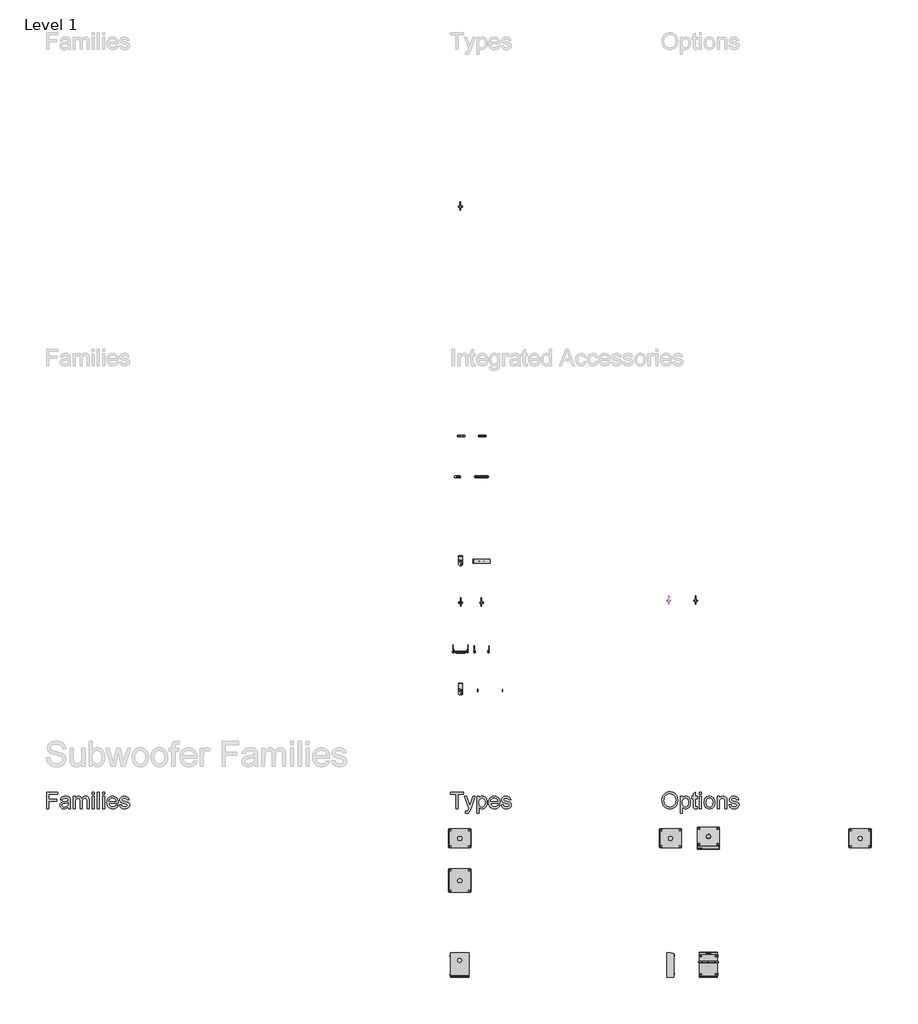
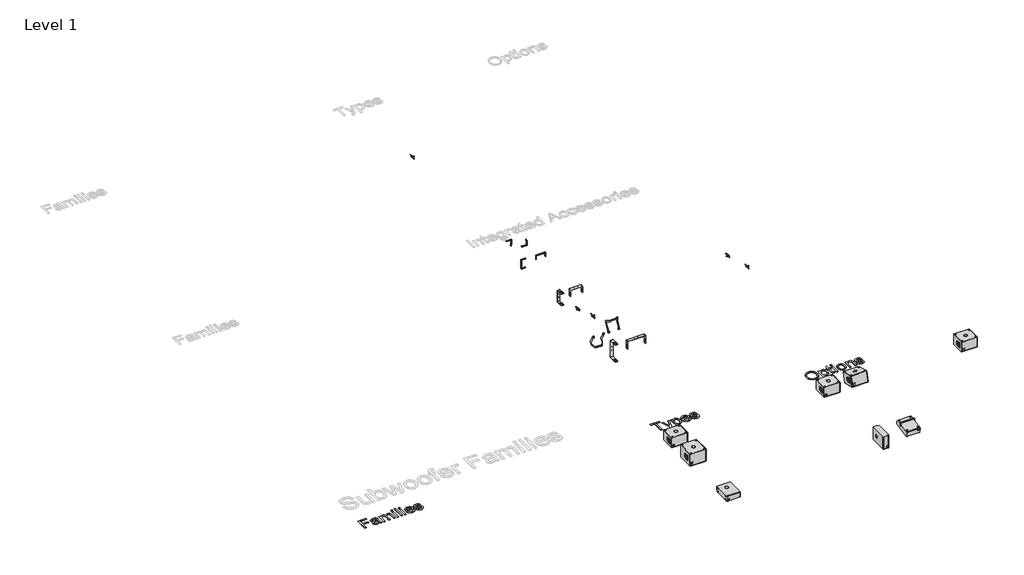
# One storey, part 1 of 6: 27 proxies.
"""IFC4 building model written with IfcOpenShell, lengths in millimetres."""

from ifc_helpers import new_model, si_unit, origin, origin_with_axes, place, context, project, spatial, polyline, outline, extrude, transform, mapped, element, save
from components import communication_devices_e63921f5, communication_devices_d8d2d2e4, communication_devices_67a3c12e, communication_devices_dac326ea, b8_horizontal_bracket_ac25d2c8, b8_sub_eabcae69, b8_sub_089d2610, b8_sub_062dfbe9, e12_horizontal_bracket_7cf302ef, e12x_sub_e6f610f2, e12x_sub_99dfb99e, e15x_sub_ec955287, e6_horizontal_bracket_5e8173ac, e6_horizontal_bracket_a06f2867, e6_swivel_bracket_389a8270, e6_swivel_bracket_26cc3f17, e8_horizontal_bracket_a681bd05

model = new_model("IFC4")

# Units and contexts
model_context = context("Model", 3, world=origin())
ifc_project = project(units=[si_unit("LENGTHUNIT", "METRE", prefix="MILLI")], contexts=[model_context])

# Site, building, storey
site = spatial("IfcSite", under=ifc_project)
building = spatial("IfcBuilding", under=site)
storey = spatial("IfcBuildingStorey", under=building, Name="Level 1", Elevation=0.0)

# Proxies
placement = place(None, origin())
communication_devices_shape = communication_devices_e63921f5(model_context)
element("IfcBuildingElementProxy", 1, Name="d&b E-Series E8 l E12 Flying Adapter : E8 l E12 Flying Adapter", ObjectType="d&b E-Series E8 l E12 Flying Adapter : E8 l E12 Flying Adapter", at=placement, inside=storey, context=model_context, shape_type="MappedRepresentation", body=[
    mapped(communication_devices_shape, transform((-11241.6434304, 4234.5594884, 1195.0), x_axis=(1.0, 0.0, 0.0), y_axis=(0.0, 1.0, 0.0), z_axis=(0.0, 0.0, 1.0))),
])
element("IfcBuildingElementProxy", 2, Name="d&b E-Series E8 l E12 Flying Adapter : E8 l E12 Flying Adapter", ObjectType="d&b E-Series E8 l E12 Flying Adapter : E8 l E12 Flying Adapter", at=placement, inside=storey, context=model_context, shape_type="MappedRepresentation", body=[
    mapped(communication_devices_shape, transform((-6303.410823, 4279.5594884, 1289.9), x_axis=(1.0, 0.0, 0.0), y_axis=(0.0, 1.0, 0.0), z_axis=(0.0, 0.0, 1.0))),
])
communication_devices_2_shape = communication_devices_d8d2d2e4(model_context)
element("IfcBuildingElementProxy", 3, Name="d&b E-Series E8 l E12 Flying Adapter : VP Flying Adapter", ObjectType="d&b E-Series E8 l E12 Flying Adapter : VP Flying Adapter", at=placement, inside=storey, context=model_context, shape_type="MappedRepresentation", body=[
    mapped(communication_devices_2_shape, transform((-11241.6434304, 13623.6304066, 801.0), x_axis=(-1.0, 0.0, 0.0), y_axis=(0.0, 1.0, 0.0), z_axis=(0.0, 0.0, -1.0))),
])
element("IfcBuildingElementProxy", 4, Name="d&b E-Series E8 l E12 Flying Adapter : VP Flying Adapter", ObjectType="d&b E-Series E8 l E12 Flying Adapter : VP Flying Adapter", at=placement, inside=storey, context=model_context, shape_type="MappedRepresentation", body=[
    mapped(communication_devices_2_shape, transform((-10741.6434304, 4235.2512301, 801.0), x_axis=(-1.0, 0.0, 0.0), y_axis=(0.0, 1.0, 0.0), z_axis=(0.0, 0.0, -1.0))),
])
element("IfcBuildingElementProxy", 5, Name="d&b E-Series E8 l E12 Flying Adapter : VP Flying Adapter", ObjectType="d&b E-Series E8 l E12 Flying Adapter : VP Flying Adapter", at=placement, inside=storey, context=model_context, shape_type="MappedRepresentation", body=[
    mapped(communication_devices_2_shape, transform((-5660.6232133, 4279.5594884, 710.1), x_axis=(-1.0, 0.0, 0.0), y_axis=(0.0, 1.0, 0.0), z_axis=(0.0, 0.0, -1.0))),
])
communication_devices_3_shape = communication_devices_67a3c12e(model_context)
element("IfcBuildingElementProxy", 6, Name="d&b E-Series E12 Flying Bracket : E12 Flying Bracket", ObjectType="d&b E-Series E12 Flying Bracket : E12 Flying Bracket", at=placement, inside=storey, context=model_context, shape_type="MappedRepresentation", body=[
    mapped(communication_devices_3_shape, transform((-11241.6434304, 3065.4052998, 1000.0), x_axis=(1.0, 0.0, 0.0), y_axis=(0.0, 1.0, 0.0), z_axis=(0.0, 0.0, 1.0))),
])
communication_devices_4_shape = communication_devices_dac326ea(model_context)
element("IfcBuildingElementProxy", 7, Name="d&b E-Series E12 Flying Bracket : E12 Flying Bracket", ObjectType="d&b E-Series E12 Flying Bracket : E12 Flying Bracket", at=placement, inside=storey, context=model_context, shape_type="MappedRepresentation", body=[
    mapped(communication_devices_4_shape, transform((-10741.6434304, 3065.4052998, 1000.0), x_axis=(1.0, 0.0, 0.0), y_axis=(0.0, -1.0, 0.0), z_axis=(0.0, 0.0, -1.0))),
])
element("IfcBuildingElementProxy", 8, Name="400mm Arial", ObjectType="400mm Arial", at=placement, inside=storey, context=model_context, shape_type="SweptSolid", body=[
    extrude(outline(polyline([(-21056.720891, -648.6945164), (-21056.720891, -256.9369407), (-20793.5087698, -256.9369407), (-20793.5087698, -305.9066376), (-21007.7511941, -305.9066376), (-21007.7511941, -422.2096679), (-20824.1148304, -422.2096679), (-20824.1148304, -471.1793649), (-21007.7511941, -471.1793649), (-21007.7511941, -648.6945164), (-21056.720891, -648.6945164)])), origin_with_axes(), (0.0, 0.0, 1.0), 5.0),
    extrude(outline(polyline([(-20548.660285, -611.9672437), (-20572.0571836, -632.02856), (-20596.1475009, -645.1556907), (-20621.4811893, -652.4007191), (-20648.6082016, -654.8157285), (-20670.4120309, -653.3631362), (-20689.5318522, -649.0053592), (-20705.9676654, -641.7423976), (-20719.7194706, -631.5742513), (-20730.5780466, -619.1465169), (-20738.3341723, -605.104791), (-20742.9878477, -589.4490737), (-20744.5390729, -572.1793649), (-20742.1957963, -551.8789388), (-20735.1659668, -533.4435695), (-20724.3223352, -517.6623195), (-20710.5376524, -505.3242513), (-20676.2493001, -489.2560695), (-20633.879035, -481.8914861), (-20583.8094327, -474.144327), (-20548.9472168, -465.0581528), (-20548.660285, -454.1547437), (-20552.0317338, -432.3001035), (-20562.1460804, -418.0013346), (-20584.7658721, -407.3848573), (-20616.2805501, -403.8460316), (-20645.4519516, -406.2012636), (-20665.8241107, -413.2669596), (-20679.7163929, -426.3343128), (-20689.4481638, -446.6945164), (-20738.4178607, -440.5733043), (-20729.9175056, -413.7930013), (-20717.2327282, -392.7513346), (-20699.1799346, -376.6592418), (-20674.5755312, -364.7276604), (-20644.4835568, -357.339166), (-20609.9680501, -354.8763346), (-20576.8632916, -357.0522342), (-20550.6209857, -363.5799331), (-20530.8346458, -373.3953924), (-20517.097785, -385.4345732), (-20507.9876997, -400.3191613), (-20502.0816865, -418.6708422), (-20499.690588, -461.519327), (-20499.690588, -522.4445164), (-20497.2038456, -607.5198005), (-20487.4481638, -648.6945164), (-20536.4178607, -648.6945164), (-20544.2606638, -631.6698952), (-20548.660285, -611.9672437)]), holes=[polyline([(-20548.660285, -514.0278498), (-20581.5618001, -522.1814956), (-20627.6621789, -529.0439482), (-20669.7933342, -536.9823952), (-20680.7565208, -542.4101888), (-20688.8743001, -549.894327), (-20693.8956069, -558.8609464), (-20695.5693759, -568.7361831), (-20691.9229507, -583.2979729), (-20680.9836751, -595.2295543), (-20662.990659, -603.1919123), (-20638.1830122, -605.8460316), (-20611.8809289, -602.9169359), (-20588.6394516, -594.129649), (-20569.7975956, -581.1818507), (-20556.6943759, -565.771221), (-20550.8840066, -549.894327), (-20548.9472168, -527.896221), (-20548.660285, -514.0278498)])]), origin_with_axes(), (0.0, 0.0, 1.0), 5.0),
    extrude(outline(polyline([(-20432.3572547, -648.6945164), (-20432.3572547, -360.9975467), (-20383.3875577, -360.9975467), (-20383.3875577, -408.3412967), (-20368.658391, -386.594256), (-20349.720891, -369.5576793), (-20327.2206543, -358.5466708), (-20301.8032774, -354.8763346), (-20274.5686657, -358.6184037), (-20252.7379365, -369.8446111), (-20236.4306448, -387.8137162), (-20225.7663456, -411.7844785), (-20207.9167954, -386.8871656), (-20187.5565918, -369.1033706), (-20164.6857348, -358.4330936), (-20139.3042244, -354.8763346), (-20119.7002057, -356.3558268), (-20102.4932632, -360.7943034), (-20087.683397, -368.1917643), (-20075.2706069, -378.5482096), (-20065.4581365, -391.9831942), (-20058.4492291, -408.6162731), (-20054.2438846, -428.4474461), (-20052.8421032, -451.4767134), (-20052.8421032, -648.6945164), (-20101.8118001, -648.6945164), (-20101.8118001, -472.5183801), (-20106.3548872, -431.630596), (-20112.7391202, -420.3565666), (-20122.8056448, -411.4975467), (-20135.7534431, -405.7589104), (-20150.7814971, -403.8460316), (-20177.3107348, -408.7477835), (-20198.9382206, -423.4530392), (-20207.3279874, -434.7330463), (-20213.320678, -448.96606), (-20218.1148304, -486.2911073), (-20218.1148304, -648.6945164), (-20267.0845274, -648.6945164), (-20267.0845274, -467.0666755), (-20269.9179791, -439.3777551), (-20278.4183342, -419.6272816), (-20293.3746552, -407.7913441), (-20315.5760047, -403.8460316), (-20334.4417717, -406.4762399), (-20351.8250577, -414.3668649), (-20366.1716486, -427.3266187), (-20375.9273304, -445.1642134), (-20381.5225009, -469.9120827), (-20383.3875577, -503.6026604), (-20383.3875577, -648.6945164), (-20432.3572547, -648.6945164)])), origin_with_axes(), (0.0, 0.0, 1.0), 5.0),
    extrude(outline(polyline([(-19979.3875577, -648.6945164), (-19979.3875577, -360.9975467), (-19930.4178607, -360.9975467), (-19930.4178607, -648.6945164), (-19979.3875577, -648.6945164)])), origin_with_axes(), (0.0, 0.0, 1.0), 5.0),
    extrude(outline(polyline([(-19979.3875577, -305.9066376), (-19979.3875577, -256.9369407), (-19930.4178607, -256.9369407), (-19930.4178607, -305.9066376), (-19979.3875577, -305.9066376)])), origin_with_axes(), (0.0, 0.0, 1.0), 5.0),
    extrude(outline(polyline([(-19856.9633153, -648.6945164), (-19856.9633153, -256.9369407), (-19807.9936183, -256.9369407), (-19807.9936183, -648.6945164), (-19856.9633153, -648.6945164)])), origin_with_axes(), (0.0, 0.0, 1.0), 5.0),
    extrude(outline(polyline([(-19734.5390729, -648.6945164), (-19734.5390729, -360.9975467), (-19685.5693759, -360.9975467), (-19685.5693759, -648.6945164), (-19734.5390729, -648.6945164)])), origin_with_axes(), (0.0, 0.0, 1.0), 5.0),
    extrude(outline(polyline([(-19734.5390729, -305.9066376), (-19734.5390729, -256.9369407), (-19685.5693759, -256.9369407), (-19685.5693759, -305.9066376), (-19734.5390729, -305.9066376)])), origin_with_axes(), (0.0, 0.0, 1.0), 5.0),
    extrude(outline(polyline([(-19410.6886941, -562.9975467), (-19362.6754365, -569.1187589), (-19370.0370309, -588.3491684), (-19379.975034, -605.2960789), (-19392.4894457, -619.9594904), (-19407.580266, -632.3394028), (-19425.0920736, -642.1727953), (-19444.8694469, -649.1966471), (-19491.220891, -654.8157285), (-19521.605775, -652.3917525), (-19548.6789876, -645.1198242), (-19572.4405288, -632.9999437), (-19592.8903986, -616.0321111), (-19609.3351784, -594.6885683), (-19621.0814497, -569.4415571), (-19628.1292125, -540.2910777), (-19630.4784668, -507.2371301), (-19628.1053015, -473.062355), (-19620.9858058, -442.9404918), (-19609.1199796, -416.8715406), (-19592.5078229, -394.8555013), (-19572.1117528, -377.3646159), (-19548.8941865, -364.8711263), (-19522.855124, -357.3750325), (-19493.9945653, -354.8763346), (-19466.0635461, -357.3690548), (-19440.8045795, -364.8472153), (-19418.2176654, -377.3108161), (-19398.3028039, -394.7598573), (-19382.0463231, -416.7280747), (-19370.4345511, -442.7492039), (-19363.4674879, -472.8232451), (-19361.1451335, -506.9501982), (-19361.4320653, -520.1490619), (-19581.5087698, -520.1490619), (-19578.6723292, -539.6903142), (-19573.0323257, -556.8046017), (-19564.5887592, -571.4919241), (-19553.3416297, -583.7522816), (-19524.9234242, -600.3225941), (-19490.2644516, -605.8460316), (-19464.2014782, -603.2875562), (-19442.2511941, -595.6121301), (-19424.4135994, -582.3415335), (-19410.6886941, -562.9975467)]), holes=[polyline([(-19581.5087698, -471.1793649), (-19410.1148304, -471.1793649), (-19416.7381732, -445.3076793), (-19429.721838, -426.800577), (-19443.076123, -416.7579634), (-19458.2715539, -409.5846679), (-19494.1858532, -403.8460316), (-19527.1949677, -408.4249852), (-19554.4893569, -422.161846), (-19573.4627234, -443.5741329), (-19581.5087698, -471.1793649)])]), origin_with_axes(), (0.0, 0.0, 1.0), 5.0),
    extrude(outline(polyline([(-19330.5390729, -562.9975467), (-19281.5693759, -556.8763346), (-19273.8461278, -577.8223573), (-19258.9017622, -593.2210316), (-19236.6406354, -602.6897816), (-19206.9671032, -605.8460316), (-19177.6522357, -602.9528024), (-19157.0409668, -594.2731149), (-19144.8463645, -581.6959369), (-19140.7814971, -567.1102361), (-19144.8702755, -554.628702), (-19157.1366107, -545.1121301), (-19207.5409668, -531.1481149), (-19281.2824441, -507.1893081), (-19299.9449677, -495.1501272), (-19313.4666297, -479.2134558), (-19321.680053, -460.3955107), (-19324.4178607, -439.7125089), (-19322.2180501, -420.7391424), (-19315.6186183, -403.224346), (-19305.2173399, -387.8615382), (-19291.6119895, -375.3441376), (-19260.4798872, -360.8540808), (-19218.3487319, -354.8763346), (-19186.4753891, -357.2793886), (-19158.7625577, -364.4885505), (-19136.4775198, -375.7984464), (-19120.8875577, -390.503702), (-19110.5580122, -409.6922674), (-19104.0542244, -434.4520922), (-19153.0239213, -440.5733043), (-19159.2049109, -425.1626746), (-19171.4353797, -413.5538914), (-19189.8348825, -406.2729965), (-19214.5229744, -403.8460316), (-19242.6422925, -406.1653971), (-19261.3885047, -413.1234937), (-19271.933249, -423.1661073), (-19275.4481638, -434.739024), (-19269.6138835, -448.989971), (-19251.345891, -459.7977361), (-19209.1669138, -470.2229255), (-19137.2904933, -493.2731149), (-19118.3051713, -504.2960789), (-19103.9107585, -519.3839104), (-19094.8365397, -538.5844312), (-19091.8118001, -561.9454634), (-19095.3625814, -586.0955581), (-19106.0149251, -608.8109937), (-19123.3623446, -628.3104018), (-19146.9983532, -642.8124142), (-19175.5480691, -651.8149), (-19207.6366107, -654.8157285), (-19233.9924938, -653.369114), (-19257.0127944, -649.0292702), (-19276.6975127, -641.7961973), (-19293.0466486, -631.6698952), (-19306.4009336, -618.6981859), (-19317.1010994, -602.9288914), (-19325.1471458, -584.3620117), (-19330.5390729, -562.9975467)])), origin_with_axes(), (0.0, 0.0, 1.0), 5.0),
])
element("IfcBuildingElementProxy", 9, Name="400mm Arial", ObjectType="400mm Arial", at=placement, inside=storey, context=model_context, shape_type="SweptSolid", body=[
    extrude(outline(polyline([(-11345.9583027, -648.6945164), (-11345.9583027, -305.9066376), (-11474.5037572, -305.9066376), (-11474.5037572, -256.9369407), (-11168.4431512, -256.9369407), (-11168.4431512, -305.9066376), (-11296.9886057, -305.9066376), (-11296.9886057, -648.6945164), (-11345.9583027, -648.6945164)])), origin_with_axes(), (0.0, 0.0, 1.0), 5.0),
    extrude(outline(polyline([(-11119.4734542, -758.8763346), (-11125.5946663, -711.7238725), (-11100.7272421, -716.0278498), (-11087.6479334, -714.6768791), (-11077.4857648, -710.6239672), (-11063.2348179, -695.5600467), (-11049.8446663, -659.5022816), (-11046.0189088, -647.6424331), (-11150.0795148, -360.9975467), (-11098.4317875, -360.9975467), (-11043.2452345, -520.7229255), (-11024.0208027, -584.613077), (-11004.7963709, -528.1831528), (-10948.0795148, -360.9975467), (-10896.8143633, -360.9975467), (-10996.9535679, -655.5808801), (-11022.9687194, -719.4710316), (-11036.2871379, -739.8671017), (-11051.3749694, -753.9984937), (-11068.9017213, -762.2477835), (-11089.5369012, -764.9975467), (-11119.4734542, -758.8763346)])), origin_with_axes(), (0.0, 0.0, 1.0), 5.0),
    extrude(outline(polyline([(-10856.261333, -758.8763346), (-10856.261333, -360.9975467), (-10807.291636, -360.9975467), (-10807.291636, -409.0108043), (-10791.3190982, -385.3269738), (-10773.4336815, -368.409952), (-10752.5833027, -358.259739), (-10727.7158785, -354.8763346), (-10694.5991644, -359.6107096), (-10665.6429618, -373.8138346), (-10642.0667307, -396.6249142), (-10625.0899315, -427.1831528), (-10614.832119, -463.2648289), (-10611.4128482, -502.646221), (-10615.2744722, -544.5263109), (-10626.8593444, -581.9828687), (-10645.7968444, -613.114971), (-10671.7163519, -636.0216945), (-10701.9039703, -650.11722), (-10733.6458027, -654.8157285), (-10756.1579949, -651.671434), (-10776.2551777, -642.2385505), (-10793.4591313, -627.999559), (-10807.291636, -610.4369407), (-10807.291636, -758.8763346), (-10856.261333, -758.8763346)]), holes=[polyline([(-10807.291636, -507.1414861), (-10801.9953529, -551.0420543), (-10795.374999, -568.0427645), (-10786.1065035, -581.7437589), (-10762.6617828, -599.8204634), (-10749.2447314, -604.3396395), (-10734.697886, -605.8460316), (-10719.9418195, -604.2858398), (-10706.2796805, -599.6052645), (-10682.2371853, -580.8829634), (-10672.6757802, -566.6858161), (-10665.8462052, -549.0574426), (-10660.3825451, -503.5070164), (-10665.7146947, -459.8455581), (-10672.3798818, -442.7133375), (-10681.7111436, -428.7134558), (-10705.1199978, -410.0628876), (-10718.3846166, -405.4002456), (-10732.6893633, -403.8460316), (-10746.9492769, -405.4988784), (-10760.3663283, -410.4574189), (-10784.6718444, -430.2915808), (-10794.5680032, -445.0117809), (-10801.6366881, -462.7268318), (-10805.8778991, -483.4367335), (-10807.291636, -507.1414861)])]), origin_with_axes(), (0.0, 0.0, 1.0), 5.0),
    extrude(outline(polyline([(-10354.8958027, -562.9975467), (-10306.8825451, -569.1187589), (-10314.2441396, -588.3491684), (-10324.1821427, -605.2960789), (-10336.6965544, -619.9594904), (-10351.7873747, -632.3394028), (-10369.2991822, -642.1727953), (-10389.0765555, -649.1966471), (-10435.4279997, -654.8157285), (-10465.8128837, -652.3917525), (-10492.8860963, -645.1198242), (-10516.6476375, -632.9999437), (-10537.0975072, -616.0321111), (-10553.5422871, -594.6885683), (-10565.2885584, -569.4415571), (-10572.3363212, -540.2910777), (-10574.6855754, -507.2371301), (-10572.3124102, -473.062355), (-10565.1929144, -442.9404918), (-10553.3270882, -416.8715406), (-10536.7149315, -394.8555013), (-10516.3188614, -377.3646159), (-10493.1012951, -364.8711263), (-10467.0622326, -357.3750325), (-10438.2016739, -354.8763346), (-10410.2706547, -357.3690548), (-10385.0116881, -364.8472153), (-10362.4247741, -377.3108161), (-10342.5099125, -394.7598573), (-10326.2534317, -416.7280747), (-10314.6416597, -442.7492039), (-10307.6745965, -472.8232451), (-10305.3522421, -506.9501982), (-10305.6391739, -520.1490619), (-10525.7158785, -520.1490619), (-10522.8794379, -539.6903142), (-10517.2394343, -556.8046017), (-10508.7958678, -571.4919241), (-10497.5487383, -583.7522816), (-10469.1305328, -600.3225941), (-10434.4715603, -605.8460316), (-10408.4085868, -603.2875562), (-10386.4583027, -595.6121301), (-10368.620708, -582.3415335), (-10354.8958027, -562.9975467)]), holes=[polyline([(-10525.7158785, -471.1793649), (-10354.3219391, -471.1793649), (-10360.9452819, -445.3076793), (-10373.9289466, -426.800577), (-10387.2832317, -416.7579634), (-10402.4786625, -409.5846679), (-10438.3929618, -403.8460316), (-10471.4020764, -408.4249852), (-10498.6964656, -422.161846), (-10517.6698321, -443.5741329), (-10525.7158785, -471.1793649)])]), origin_with_axes(), (0.0, 0.0, 1.0), 5.0),
    extrude(outline(polyline([(-10274.7461815, -562.9975467), (-10225.7764845, -556.8763346), (-10218.0532364, -577.8223573), (-10203.1088709, -593.2210316), (-10180.847744, -602.6897816), (-10151.1742118, -605.8460316), (-10121.8593444, -602.9528024), (-10101.2480754, -594.2731149), (-10089.0534732, -581.6959369), (-10084.9886057, -567.1102361), (-10089.0773841, -554.628702), (-10101.3437194, -545.1121301), (-10151.7480754, -531.1481149), (-10225.4895527, -507.1893081), (-10244.1520764, -495.1501272), (-10257.6737383, -479.2134558), (-10265.8871616, -460.3955107), (-10268.6249694, -439.7125089), (-10266.4251588, -420.7391424), (-10259.8257269, -403.224346), (-10249.4244485, -387.8615382), (-10235.8190982, -375.3441376), (-10204.6869959, -360.8540808), (-10162.5558406, -354.8763346), (-10130.6824978, -357.2793886), (-10102.9696663, -364.4885505), (-10080.6846285, -375.7984464), (-10065.0946663, -390.503702), (-10054.7651209, -409.6922674), (-10048.261333, -434.4520922), (-10097.23103, -440.5733043), (-10103.4120196, -425.1626746), (-10115.6424883, -413.5538914), (-10134.0419911, -406.2729965), (-10158.730083, -403.8460316), (-10186.8494012, -406.1653971), (-10205.5956133, -413.1234937), (-10216.1403576, -423.1661073), (-10219.6552724, -434.739024), (-10213.8209921, -448.989971), (-10195.5529997, -459.7977361), (-10153.3740224, -470.2229255), (-10081.4976019, -493.2731149), (-10062.51228, -504.2960789), (-10048.1178671, -519.3839104), (-10039.0436483, -538.5844312), (-10036.0189088, -561.9454634), (-10039.56969, -586.0955581), (-10050.2220338, -608.8109937), (-10067.5694533, -628.3104018), (-10091.2054618, -642.8124142), (-10119.7551777, -651.8149), (-10151.8437194, -654.8157285), (-10178.1996024, -653.369114), (-10201.2199031, -649.0292702), (-10220.9046214, -641.7961973), (-10237.2537572, -631.6698952), (-10250.6080423, -618.6981859), (-10261.308208, -602.9288914), (-10269.3542544, -584.3620117), (-10274.7461815, -562.9975467)])), origin_with_axes(), (0.0, 0.0, 1.0), 5.0),
])
element("IfcBuildingElementProxy", 10, Name="400mm Arial", ObjectType="400mm Arial", at=placement, inside=storey, context=model_context, shape_type="SweptSolid", body=[
    extrude(outline(polyline([(-6462.261333, -457.9805013), (-6458.9974836, -412.0295661), (-6449.2059353, -371.3510032), (-6432.8866881, -335.9448124), (-6410.0397421, -305.8109937), (-6382.0340011, -281.7505652), (-6350.238369, -264.5645448), (-6314.6528458, -254.2529326), (-6275.2774315, -250.8157285), (-6248.9215484, -252.42972), (-6223.892725, -257.2716945), (-6200.1909613, -265.3416518), (-6177.8162572, -276.6395922), (-6157.3962762, -290.8247839), (-6139.5586815, -307.5564956), (-6124.3034732, -326.8347271), (-6111.6306512, -348.6594785), (-6101.671726, -372.5345969), (-6094.558208, -397.9639293), (-6088.8673936, -453.4852361), (-6094.8570953, -509.7477835), (-6102.3442224, -535.5298029), (-6112.8262004, -559.7456528), (-6126.0549528, -581.7557143), (-6141.7824031, -600.9203687), (-6160.0085513, -617.2396159), (-6180.7333974, -630.7134558), (-6226.4153339, -648.7901604), (-6275.5643633, -654.8157285), (-6302.3805328, -653.1509262), (-6327.7381322, -648.1565193), (-6351.6371616, -639.8325077), (-6374.0776209, -628.1788914), (-6394.473691, -613.6469904), (-6412.2395527, -596.6881244), (-6427.3752061, -577.3022934), (-6439.8806512, -555.4894975), (-6456.6661625, -508.08597), (-6462.261333, -457.9805013)]), holes=[polyline([(-6413.291636, -458.458721), (-6410.843749, -490.9238607), (-6403.5000877, -519.7425751), (-6391.2606524, -544.9148644), (-6374.1254429, -566.4407285), (-6353.2959862, -583.6805486), (-6329.9738093, -595.9947058), (-6304.1589123, -603.3832001), (-6275.8512951, -605.8460316), (-6247.0594805, -603.3592892), (-6220.9397184, -595.8990619), (-6197.4920089, -583.4653498), (-6176.7163519, -566.0581528), (-6159.7066751, -544.07798), (-6147.5569059, -517.9253403), (-6140.2670444, -487.6002338), (-6137.8370906, -453.1026604), (-6141.9976019, -409.7520448), (-6154.479136, -372.2835316), (-6174.9588946, -341.6416045), (-6203.1140792, -318.7707475), (-6237.0796332, -304.531756), (-6274.9904997, -299.7854255), (-6302.3147776, -302.0719134), (-6327.6663993, -308.9313772), (-6351.0453647, -320.3638169), (-6372.4516739, -336.3692323), (-6390.3191573, -357.7187529), (-6403.0816455, -385.1835079), (-6410.7391384, -418.7634973), (-6413.291636, -458.458721)])]), origin_with_axes(), (0.0, 0.0, 1.0), 5.0),
    extrude(outline(polyline([(-6027.6552724, -758.8763346), (-6027.6552724, -360.9975467), (-5978.6855754, -360.9975467), (-5978.6855754, -409.0108043), (-5962.7130375, -385.3269738), (-5944.8276209, -368.409952), (-5923.9772421, -358.259739), (-5899.1098179, -354.8763346), (-5865.9931038, -359.6107096), (-5837.0369012, -373.8138346), (-5813.4606701, -396.6249142), (-5796.4838709, -427.1831528), (-5786.2260584, -463.2648289), (-5782.8067875, -502.646221), (-5786.6684116, -544.5263109), (-5798.2532838, -581.9828687), (-5817.1907838, -613.114971), (-5843.1102913, -636.0216945), (-5873.2979097, -650.11722), (-5905.0397421, -654.8157285), (-5927.5519343, -651.671434), (-5947.6491171, -642.2385505), (-5964.8530707, -627.999559), (-5978.6855754, -610.4369407), (-5978.6855754, -758.8763346), (-6027.6552724, -758.8763346)]), holes=[polyline([(-5978.6855754, -507.1414861), (-5973.3892923, -551.0420543), (-5966.7689384, -568.0427645), (-5957.5004429, -581.7437589), (-5934.0557222, -599.8204634), (-5920.6386708, -604.3396395), (-5906.0918254, -605.8460316), (-5891.3357589, -604.2858398), (-5877.6736199, -599.6052645), (-5853.6311247, -580.8829634), (-5844.0697196, -566.6858161), (-5837.2401446, -549.0574426), (-5831.7764845, -503.5070164), (-5837.1086341, -459.8455581), (-5843.7738212, -442.7133375), (-5853.105083, -428.7134558), (-5876.5139372, -410.0628876), (-5889.778556, -405.4002456), (-5904.0833027, -403.8460316), (-5918.3432163, -405.4988784), (-5931.7602677, -410.4574189), (-5956.0657838, -430.2915808), (-5965.9619426, -445.0117809), (-5973.0306275, -462.7268318), (-5977.2718384, -483.4367335), (-5978.6855754, -507.1414861)])]), origin_with_axes(), (0.0, 0.0, 1.0), 5.0),
    extrude(outline(polyline([(-5623.6552724, -607.8545543), (-5617.5340603, -650.1291755), (-5654.1656891, -654.8157285), (-5677.6701872, -652.7832948), (-5695.1969391, -646.6859937), (-5707.5828292, -637.2889767), (-5715.6647421, -625.3573952), (-5720.1121853, -604.8656812), (-5721.5946663, -569.7882664), (-5721.5946663, -409.9672437), (-5758.3219391, -409.9672437), (-5758.3219391, -360.9975467), (-5721.5946663, -360.9975467), (-5721.5946663, -291.081827), (-5672.6249694, -262.2930013), (-5672.6249694, -360.9975467), (-5623.6552724, -360.9975467), (-5623.6552724, -409.9672437), (-5672.6249694, -409.9672437), (-5672.6249694, -568.3536073), (-5670.042583, -593.6036073), (-5661.6737383, -602.5463157), (-5644.9838709, -605.8460316), (-5623.6552724, -607.8545543)])), origin_with_axes(), (0.0, 0.0, 1.0), 5.0),
    extrude(outline(polyline([(-5574.6855754, -648.6945164), (-5574.6855754, -360.9975467), (-5525.7158785, -360.9975467), (-5525.7158785, -648.6945164), (-5574.6855754, -648.6945164)])), origin_with_axes(), (0.0, 0.0, 1.0), 5.0),
    extrude(outline(polyline([(-5574.6855754, -305.9066376), (-5574.6855754, -256.9369407), (-5525.7158785, -256.9369407), (-5525.7158785, -305.9066376), (-5574.6855754, -305.9066376)])), origin_with_axes(), (0.0, 0.0, 1.0), 5.0),
    extrude(outline(polyline([(-5464.5037572, -504.8460316), (-5461.8556157, -467.5867394), (-5453.911191, -435.4802645), (-5440.6704831, -408.5266069), (-5422.1334921, -386.7257664), (-5403.4709684, -372.79164), (-5382.871655, -362.8386926), (-5360.3355518, -356.8669241), (-5335.8626588, -354.8763346), (-5308.8462348, -357.3003107), (-5284.4181749, -364.572239), (-5262.5784791, -376.6921194), (-5243.3271474, -393.659952), (-5227.6146415, -414.9018732), (-5216.391423, -439.8440193), (-5209.6574919, -468.4863902), (-5207.4128482, -500.8289861), (-5211.3820716, -550.3008138), (-5223.2897421, -587.9606149), (-5242.7891502, -616.1636215), (-5269.5335868, -637.2650657), (-5301.2993302, -650.4280628), (-5335.8626588, -654.8157285), (-5363.273614, -652.4007191), (-5387.9288283, -645.1556907), (-5409.8283015, -633.0806433), (-5428.9720338, -616.175577), (-5444.5171628, -594.7274236), (-5455.6208264, -569.0231149), (-5462.2830245, -539.0626509), (-5464.5037572, -504.8460316)]), holes=[polyline([(-5415.5340603, -504.7503876), (-5414.1173344, -528.5029622), (-5409.8671569, -549.0693981), (-5402.7835276, -566.4496952), (-5392.8664466, -580.6438535), (-5380.8033548, -591.6698064), (-5367.2816929, -599.5454871), (-5352.3014608, -604.2708955), (-5335.8626588, -605.8460316), (-5319.5075451, -604.2619288), (-5304.5870906, -599.5096206), (-5291.1012951, -591.5891069), (-5279.0501588, -580.5003876), (-5269.1330778, -566.1657522), (-5262.0494485, -548.5074899), (-5257.799271, -527.5256007), (-5256.3825451, -503.2200846), (-5257.8082376, -480.2207061), (-5262.085315, -460.1922674), (-5269.2137774, -443.1347686), (-5279.1936247, -429.0482096), (-5291.2895941, -418.0222567), (-5304.766423, -410.1465761), (-5319.6241112, -405.4211677), (-5335.8626588, -403.8460316), (-5352.3014608, -405.41519), (-5367.2816929, -410.1226651), (-5380.8033548, -417.968457), (-5392.8664466, -428.9525657), (-5402.7835276, -443.1048798), (-5409.8671569, -460.4552882), (-5414.1173344, -481.0037908), (-5415.5340603, -504.7503876)])]), origin_with_axes(), (0.0, 0.0, 1.0), 5.0),
    extrude(outline(polyline([(-5152.3219391, -648.6945164), (-5152.3219391, -360.9975467), (-5103.3522421, -360.9975467), (-5103.3522421, -401.1680013), (-5086.3395764, -380.9153971), (-5065.9076398, -366.4492513), (-5042.0564324, -357.7695638), (-5014.7859542, -354.8763346), (-4990.647815, -357.2076556), (-4968.5421095, -364.2016187), (-4950.1067402, -374.9854729), (-4936.9796095, -388.6864672), (-4928.0727677, -405.2687352), (-4922.2982648, -424.6964104), (-4919.7158785, -472.0401604), (-4919.7158785, -648.6945164), (-4968.6855754, -648.6945164), (-4968.6855754, -478.6395922), (-4970.0963235, -453.3178592), (-4974.3285679, -435.3128876), (-4982.1355044, -422.4129113), (-4994.2703292, -412.4061642), (-5009.8244249, -405.9860647), (-5027.8891739, -403.8460316), (-5056.5704002, -408.6521395), (-5081.0193822, -423.0704634), (-5090.7900084, -434.8406457), (-5097.7690271, -450.9267607), (-5101.9564384, -471.3288086), (-5103.3522421, -496.0467892), (-5103.3522421, -648.6945164), (-5152.3219391, -648.6945164)])), origin_with_axes(), (0.0, 0.0, 1.0), 5.0),
    extrude(outline(polyline([(-4870.7461815, -562.9975467), (-4821.7764845, -556.8763346), (-4814.0532364, -577.8223573), (-4799.1088709, -593.2210316), (-4776.847744, -602.6897816), (-4747.1742118, -605.8460316), (-4717.8593444, -602.9528024), (-4697.2480754, -594.2731149), (-4685.0534732, -581.6959369), (-4680.9886057, -567.1102361), (-4685.0773841, -554.628702), (-4697.3437194, -545.1121301), (-4747.7480754, -531.1481149), (-4821.4895527, -507.1893081), (-4840.1520764, -495.1501272), (-4853.6737383, -479.2134558), (-4861.8871616, -460.3955107), (-4864.6249694, -439.7125089), (-4862.4251588, -420.7391424), (-4855.8257269, -403.224346), (-4845.4244485, -387.8615382), (-4831.8190982, -375.3441376), (-4800.6869959, -360.8540808), (-4758.5558406, -354.8763346), (-4726.6824978, -357.2793886), (-4698.9696663, -364.4885505), (-4676.6846285, -375.7984464), (-4661.0946663, -390.503702), (-4650.7651209, -409.6922674), (-4644.261333, -434.4520922), (-4693.23103, -440.5733043), (-4699.4120196, -425.1626746), (-4711.6424883, -413.5538914), (-4730.0419911, -406.2729965), (-4754.730083, -403.8460316), (-4782.8494012, -406.1653971), (-4801.5956133, -413.1234937), (-4812.1403576, -423.1661073), (-4815.6552724, -434.739024), (-4809.8209921, -448.989971), (-4791.5529997, -459.7977361), (-4749.3740224, -470.2229255), (-4677.4976019, -493.2731149), (-4658.51228, -504.2960789), (-4644.1178671, -519.3839104), (-4635.0436483, -538.5844312), (-4632.0189088, -561.9454634), (-4635.56969, -586.0955581), (-4646.2220338, -608.8109937), (-4663.5694533, -628.3104018), (-4687.2054618, -642.8124142), (-4715.7551777, -651.8149), (-4747.8437194, -654.8157285), (-4774.1996024, -653.369114), (-4797.2199031, -649.0292702), (-4816.9046214, -641.7961973), (-4833.2537572, -631.6698952), (-4846.6080423, -618.6981859), (-4857.308208, -602.9288914), (-4865.3542544, -584.3620117), (-4870.7461815, -562.9975467)])), origin_with_axes(), (0.0, 0.0, 1.0), 5.0),
])
b8_horizontal_bracket_shape = b8_horizontal_bracket_ac25d2c8(model_context)
element("IfcBuildingElementProxy", 11, Name="d&b B8 Horizontal Bracket : B8 Horizontal Bracket", ObjectType="d&b B8 Horizontal Bracket : B8 Horizontal Bracket", at=placement, inside=storey, context=model_context, shape_type="MappedRepresentation", body=[
    mapped(b8_horizontal_bracket_shape, transform((-5361.6434304, -4353.4987699, 300.0), x_axis=(1.0, 0.0, 0.0), y_axis=(0.0, 1.0, 0.0), z_axis=(0.0, 0.0, 1.0))),
])
b8_sub_shape = b8_sub_eabcae69(model_context)
element("IfcBuildingElementProxy", 12, Name="d&b B8 Subwoofer : B8 Sub", ObjectType="d&b B8 Subwoofer : B8 Sub", at=placement, inside=storey, context=model_context, shape_type="MappedRepresentation", body=[
    mapped(b8_sub_shape, transform((-11261.6434304, -4353.4987699, 80.5), x_axis=(1.0, 0.0, 0.0), y_axis=(0.0, 1.0, 0.0), z_axis=(0.0, 0.0, 1.0))),
])
b8_sub_2_shape = b8_sub_089d2610(model_context)
element("IfcBuildingElementProxy", 13, Name="d&b B8 Subwoofer : B8 Sub", ObjectType="d&b B8 Subwoofer : B8 Sub", at=placement, inside=storey, context=model_context, shape_type="MappedRepresentation", body=[
    mapped(b8_sub_2_shape, transform((-6261.6434304, -4353.4987699, 223.5), x_axis=(1.0, 0.0, 0.0), y_axis=(0.0, 1.0, 0.0), z_axis=(0.0, 0.0, 1.0))),
])
b8_sub_3_shape = b8_sub_062dfbe9(model_context)
element("IfcBuildingElementProxy", 14, Name="d&b B8 Subwoofer : B8 Sub", ObjectType="d&b B8 Subwoofer : B8 Sub", at=placement, inside=storey, context=model_context, shape_type="MappedRepresentation", body=[
    mapped(b8_sub_3_shape, transform((-5361.6434304, -4353.4987699, 300.0), x_axis=(1.0, 0.0, 0.0), y_axis=(0.0, 1.0, 0.0), z_axis=(0.0, 0.0, 1.0))),
])
e12_horizontal_bracket_shape = e12_horizontal_bracket_7cf302ef(model_context)
element("IfcBuildingElementProxy", 15, Name="d&b E-Series E12 Horizontal Bracket : E12 Horizontal Bracket", ObjectType="d&b E-Series E12 Horizontal Bracket : E12 Horizontal Bracket", at=placement, inside=storey, context=model_context, shape_type="MappedRepresentation", body=[
    mapped(e12_horizontal_bracket_shape, transform((-11241.6434304, 2120.1365799, 1000.0), x_axis=(1.0, 0.0, 0.0), y_axis=(0.0, 1.0, 0.0), z_axis=(0.0, 0.0, 1.0))),
])
element("IfcBuildingElementProxy", 16, Name="d&b E-Series E12 Horizontal Bracket : E12 Horizontal Bracket", ObjectType="d&b E-Series E12 Horizontal Bracket : E12 Horizontal Bracket", at=placement, inside=storey, context=model_context, shape_type="MappedRepresentation", body=[
    mapped(e12_horizontal_bracket_shape, transform((-10541.6434304, 2149.4636579, 1023.5788383), x_axis=(0.0, 1.0, 0.0), y_axis=(0.0, 0.0, 1.0), z_axis=(1.0, 0.0, 0.0))),
])
e12x_sub_shape = e12x_sub_e6f610f2(model_context)
element("IfcBuildingElementProxy", 17, Name="d&b E-Series E12X Subwoofer : E12X SUB", ObjectType="d&b E-Series E12X Subwoofer : E12X SUB", at=placement, inside=storey, context=model_context, shape_type="MappedRepresentation", body=[
    mapped(e12x_sub_shape, transform((-11261.6434304, -1353.4987699, 182.0), x_axis=(1.0, 0.0, 0.0), y_axis=(0.0, 1.0, 0.0), z_axis=(0.0, 0.0, 1.0))),
])
element("IfcBuildingElementProxy", 18, Name="d&b E-Series E12X Subwoofer : E12X SUB", ObjectType="d&b E-Series E12X Subwoofer : E12X SUB", at=placement, inside=storey, context=model_context, shape_type="MappedRepresentation", body=[
    mapped(e12x_sub_shape, transform((-6261.6434304, -1353.4987699, 182.0), x_axis=(1.0, 0.0, 0.0), y_axis=(0.0, 1.0, 0.0), z_axis=(0.0, 0.0, 1.0))),
])
element("IfcBuildingElementProxy", 19, Name="d&b E-Series E12X Subwoofer : E12X SUB", ObjectType="d&b E-Series E12X Subwoofer : E12X SUB", at=placement, inside=storey, context=model_context, shape_type="MappedRepresentation", body=[
    mapped(e12x_sub_shape, transform((-1761.6434304, -1353.4987699, 182.0), x_axis=(1.0, 0.0, 0.0), y_axis=(0.0, 1.0, 0.0), z_axis=(0.0, 0.0, 1.0))),
])
e12x_sub_2_shape = e12x_sub_99dfb99e(model_context)
element("IfcBuildingElementProxy", 20, Name="d&b E-Series E12X Subwoofer : E12X SUB", ObjectType="d&b E-Series E12X Subwoofer : E12X SUB", at=placement, inside=storey, context=model_context, shape_type="MappedRepresentation", body=[
    mapped(e12x_sub_2_shape, transform((-5361.6434304, -1353.4987699, 182.0), x_axis=(1.0, 0.0, 0.0), y_axis=(0.0, 1.0, 0.0), z_axis=(0.0, 0.0, 1.0))),
])
e15x_sub_shape = e15x_sub_ec955287(model_context)
element("IfcBuildingElementProxy", 21, Name="d&b E-Series E15X Subwoofer : E15X SUB", ObjectType="d&b E-Series E15X Subwoofer : E15X SUB", at=placement, inside=storey, context=model_context, shape_type="MappedRepresentation", body=[
    mapped(e15x_sub_shape, transform((-11261.6434304, -2353.4987699, 216.0), x_axis=(1.0, 0.0, 0.0), y_axis=(0.0, 1.0, 0.0), z_axis=(0.0, 0.0, 1.0))),
])
e6_horizontal_bracket_shape = e6_horizontal_bracket_5e8173ac(model_context)
element("IfcBuildingElementProxy", 22, Name="d&b E-Series E6 Horizontal Bracket : E6 Horizontal Bracket", ObjectType="d&b E-Series E6 Horizontal Bracket : E6 Horizontal Bracket", at=placement, inside=storey, context=model_context, shape_type="MappedRepresentation", body=[
    mapped(e6_horizontal_bracket_shape, transform((-11241.6434304, 7186.5012301, 1000.0), x_axis=(1.0, 0.0, 0.0), y_axis=(0.0, 0.0, -1.0), z_axis=(0.0, 1.0, 0.0))),
])
e6_horizontal_bracket_2_shape = e6_horizontal_bracket_a06f2867(model_context)
element("IfcBuildingElementProxy", 23, Name="d&b E-Series E6 Horizontal Bracket : E6 Horizontal Bracket", ObjectType="d&b E-Series E6 Horizontal Bracket : E6 Horizontal Bracket", at=placement, inside=storey, context=model_context, shape_type="MappedRepresentation", body=[
    mapped(e6_horizontal_bracket_2_shape, transform((-10741.6434304, 7186.5012301, 1000.0), x_axis=(0.0, 0.0, -1.0), y_axis=(-1.0, 0.0, 0.0), z_axis=(0.0, 1.0, 0.0))),
])
e6_swivel_bracket_shape = e6_swivel_bracket_389a8270(model_context)
element("IfcBuildingElementProxy", 24, Name="d&b E-Series E6 Swivel Bracket : E6 Swivel Bracket", ObjectType="d&b E-Series E6 Swivel Bracket : E6 Swivel Bracket", at=placement, inside=storey, context=model_context, shape_type="MappedRepresentation", body=[
    mapped(e6_swivel_bracket_shape, transform((-11241.6434304, 8186.5012301, 1000.0), x_axis=(1.0000000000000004, 0.0, 0.0), y_axis=(0.0, -1.0000000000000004, 0.0), z_axis=(0.0, 0.0, -1.0))),
])
e6_swivel_bracket_2_shape = e6_swivel_bracket_26cc3f17(model_context)
element("IfcBuildingElementProxy", 25, Name="d&b E-Series E6 Swivel Bracket : E6 Swivel Bracket", ObjectType="d&b E-Series E6 Swivel Bracket : E6 Swivel Bracket", at=placement, inside=storey, context=model_context, shape_type="MappedRepresentation", body=[
    mapped(e6_swivel_bracket_2_shape, transform((-10741.6434304, 8186.5012301, 1000.0), x_axis=(1.0000000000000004, 0.0, 0.0), y_axis=(0.0, 1.0000000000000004, 0.0), z_axis=(0.0, 0.0, 1.0))),
])
e8_horizontal_bracket_shape = e8_horizontal_bracket_a681bd05(model_context)
element("IfcBuildingElementProxy", 26, Name="d&b E-Series E8 Horizontal Bracket : E8 Horizontal Bracket", ObjectType="d&b E-Series E8 Horizontal Bracket : E8 Horizontal Bracket", at=placement, inside=storey, context=model_context, shape_type="MappedRepresentation", body=[
    mapped(e8_horizontal_bracket_shape, transform((-11241.6434304, 5186.4594884, 1000.0), x_axis=(1.0, 0.0, 0.0), y_axis=(0.0, 1.0, 0.0), z_axis=(0.0, 0.0, 1.0))),
])
element("IfcBuildingElementProxy", 27, Name="d&b E-Series E8 Horizontal Bracket : E8 Horizontal Bracket", ObjectType="d&b E-Series E8 Horizontal Bracket : E8 Horizontal Bracket", at=placement, inside=storey, context=model_context, shape_type="MappedRepresentation", body=[
    mapped(e8_horizontal_bracket_shape, transform((-10741.6434304, 5216.0808549, 1024.0730495), x_axis=(0.0, 1.0, 0.0), y_axis=(0.0, 0.0, 1.0), z_axis=(1.0, 0.0, 0.0))),
])

save(model, "model.ifc")
